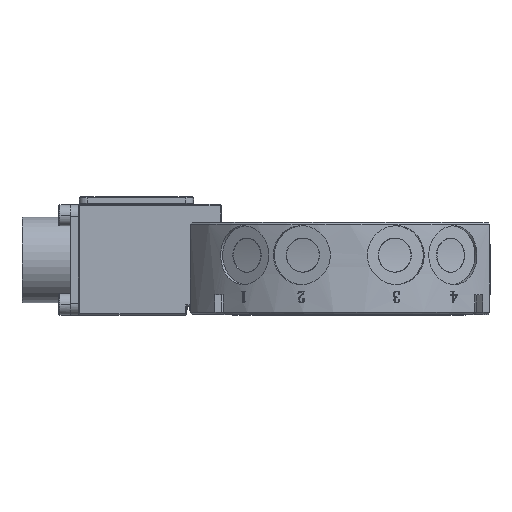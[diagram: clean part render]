
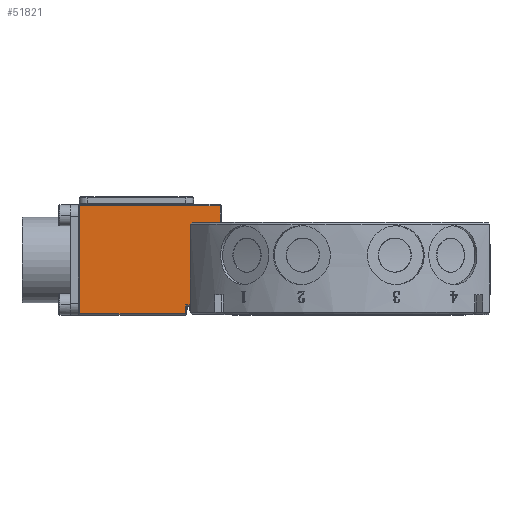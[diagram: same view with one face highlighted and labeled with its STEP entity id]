
A CAD part, top view. The second image highlights one B-rep face of the part: STEP entity #51821.
In plain terms, the highlighted planar face has unit normal (0, 0, 1).
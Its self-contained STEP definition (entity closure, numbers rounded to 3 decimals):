
#1053 = VERTEX_POINT ( 'NONE', #99954 ) ;
#2325 = VECTOR ( 'NONE', #59898, 1000. ) ;
#9501 = ORIENTED_EDGE ( 'NONE', *, *, #128905, .T. ) ;
#10785 = CARTESIAN_POINT ( 'NONE',  ( -89.484, 96.368, 147.774 ) ) ;
#12215 = DIRECTION ( 'NONE',  ( 1., 0., 0. ) ) ;
#14179 = CARTESIAN_POINT ( 'NONE',  ( -88.584, 119.468, 147.774 ) ) ;
#15973 = ORIENTED_EDGE ( 'NONE', *, *, #136526, .T. ) ;
#20103 = FACE_OUTER_BOUND ( 'NONE', #77652, .T. ) ;
#24430 = DIRECTION ( 'NONE',  ( 0., 1., 0. ) ) ;
#24641 = LINE ( 'NONE', #34050, #124696 ) ;
#27202 = ORIENTED_EDGE ( 'NONE', *, *, #131239, .T. ) ;
#33969 = VERTEX_POINT ( 'NONE', #112161 ) ;
#33983 = LINE ( 'NONE', #67608, #82292 ) ;
#34050 = CARTESIAN_POINT ( 'NONE',  ( -89.784, 96.068, 147.774 ) ) ;
#34334 = DIRECTION ( 'NONE',  ( 1., 0., 0. ) ) ;
#38013 = PLANE ( 'NONE',  #92058 ) ;
#40995 = DIRECTION ( 'NONE',  ( 0., 1., 0. ) ) ;
#42466 = CARTESIAN_POINT ( 'NONE',  ( -88.584, 119.968, 147.774 ) ) ;
#42648 = EDGE_CURVE ( 'NONE', #90145, #115881, #82941, .T. ) ;
#42968 = DIRECTION ( 'NONE',  ( 1., 0., 0. ) ) ;
#43300 = CARTESIAN_POINT ( 'NONE',  ( -89.784, 96.368, 147.774 ) ) ;
#49179 = CARTESIAN_POINT ( 'NONE',  ( -117.484, 96.068, 147.774 ) ) ;
#51821 = ADVANCED_FACE ( 'NONE', ( #20103 ), #38013, .F. ) ;
#53488 = CARTESIAN_POINT ( 'NONE',  ( -117.184, 96.368, 147.774 ) ) ;
#57075 = LINE ( 'NONE', #10785, #101657 ) ;
#58620 = VECTOR ( 'NONE', #42968, 1000. ) ;
#59898 = DIRECTION ( 'NONE',  ( 0., -1., 0. ) ) ;
#60459 = LINE ( 'NONE', #63721, #58620 ) ;
#62740 = CARTESIAN_POINT ( 'NONE',  ( -80.884, 96.068, 147.774 ) ) ;
#63721 = CARTESIAN_POINT ( 'NONE',  ( -88.584, 119.468, 147.774 ) ) ;
#67608 = CARTESIAN_POINT ( 'NONE',  ( -117.484, 124.368, 147.774 ) ) ;
#68078 = DIRECTION ( 'NONE',  ( -1., 0., 0. ) ) ;
#71434 = CARTESIAN_POINT ( 'NONE',  ( -117.184, 96.068, 147.774 ) ) ;
#72020 = VECTOR ( 'NONE', #34334, 1000. ) ;
#73238 = CARTESIAN_POINT ( 'NONE',  ( -88.584, 98.668, 147.774 ) ) ;
#74157 = DIRECTION ( 'NONE',  ( 0., 0., -1. ) ) ;
#76225 = CARTESIAN_POINT ( 'NONE',  ( -117.184, 124.368, 147.774 ) ) ;
#76460 = LINE ( 'NONE', #71434, #2325 ) ;
#77652 = EDGE_LOOP ( 'NONE', ( #9501, #141918, #90870, #15973, #27202, #133214, #100060, #113407 ) ) ;
#79051 = VERTEX_POINT ( 'NONE', #43300 ) ;
#82292 = VECTOR ( 'NONE', #68078, 1000. ) ;
#82941 = LINE ( 'NONE', #42466, #114116 ) ;
#84003 = LINE ( 'NONE', #123120, #72020 ) ;
#88461 = CARTESIAN_POINT ( 'NONE',  ( -80.884, 119.468, 147.774 ) ) ;
#90145 = VERTEX_POINT ( 'NONE', #14179 ) ;
#90870 = ORIENTED_EDGE ( 'NONE', *, *, #106015, .T. ) ;
#92001 = LINE ( 'NONE', #62740, #116236 ) ;
#92058 = AXIS2_PLACEMENT_3D ( 'NONE', #49179, #74157, #93786 ) ;
#93786 = DIRECTION ( 'NONE',  ( 1., 0., 0. ) ) ;
#97898 = DIRECTION ( 'NONE',  ( 0., -1., 0. ) ) ;
#99954 = CARTESIAN_POINT ( 'NONE',  ( -80.884, 124.368, 147.774 ) ) ;
#100060 = ORIENTED_EDGE ( 'NONE', *, *, #130184, .T. ) ;
#101657 = VECTOR ( 'NONE', #12215, 1000. ) ;
#102890 = VERTEX_POINT ( 'NONE', #88461 ) ;
#105179 = EDGE_CURVE ( 'NONE', #79051, #33969, #24641, .T. ) ;
#106015 = EDGE_CURVE ( 'NONE', #90145, #102890, #60459, .T. ) ;
#112161 = CARTESIAN_POINT ( 'NONE',  ( -89.784, 98.668, 147.774 ) ) ;
#113407 = ORIENTED_EDGE ( 'NONE', *, *, #105179, .T. ) ;
#114116 = VECTOR ( 'NONE', #97898, 1000. ) ;
#115881 = VERTEX_POINT ( 'NONE', #73238 ) ;
#116236 = VECTOR ( 'NONE', #40995, 1000. ) ;
#122519 = VERTEX_POINT ( 'NONE', #76225 ) ;
#122563 = EDGE_CURVE ( 'NONE', #122519, #140080, #76460, .T. ) ;
#123120 = CARTESIAN_POINT ( 'NONE',  ( -80.884, 98.668, 147.774 ) ) ;
#124696 = VECTOR ( 'NONE', #24430, 1000. ) ;
#128905 = EDGE_CURVE ( 'NONE', #33969, #115881, #84003, .T. ) ;
#130184 = EDGE_CURVE ( 'NONE', #140080, #79051, #57075, .T. ) ;
#131239 = EDGE_CURVE ( 'NONE', #1053, #122519, #33983, .T. ) ;
#133214 = ORIENTED_EDGE ( 'NONE', *, *, #122563, .T. ) ;
#136526 = EDGE_CURVE ( 'NONE', #102890, #1053, #92001, .T. ) ;
#140080 = VERTEX_POINT ( 'NONE', #53488 ) ;
#141918 = ORIENTED_EDGE ( 'NONE', *, *, #42648, .F. ) ;
